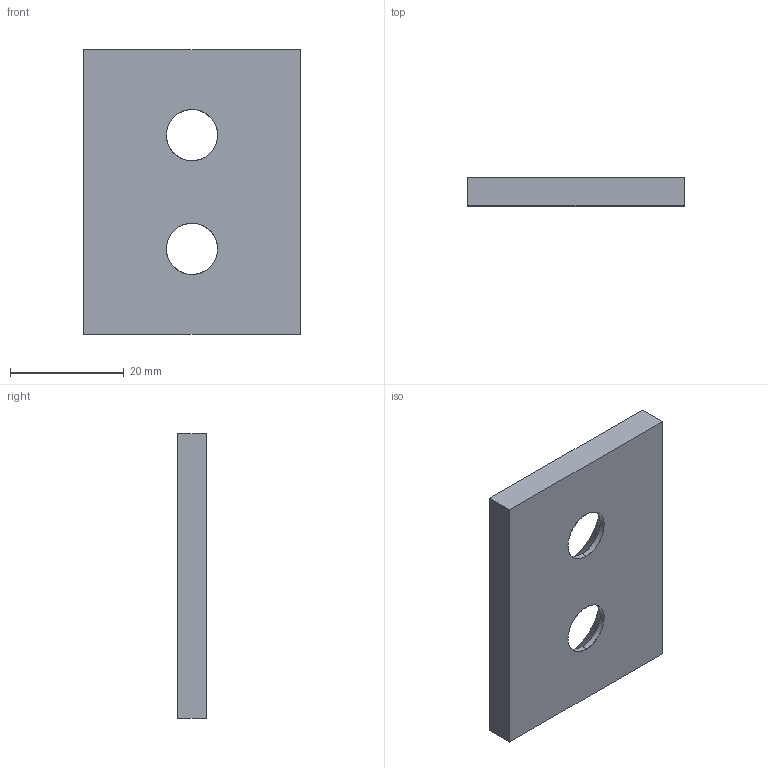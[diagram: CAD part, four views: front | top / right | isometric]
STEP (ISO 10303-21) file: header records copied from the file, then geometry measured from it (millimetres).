
FILE_DESCRIPTION(('CATIA V5 STEP Exchange'),'2;1');
FILE_NAME('C:\Users\Utente\Desktop\3D files A605\A605-038-050.stp','2020-04-13T15:44:58+00:00',('none'),('none'),'CATIA Version 5 Release 20 GA (IN-10)','CATIA V5 STEP AP203','none');
FILE_SCHEMA(('CONFIG_CONTROL_DESIGN'));
Length unit declared in the file: millimetre
Products named in the file (1): Noname
Bounding box: 38 x 5 x 50 mm (x, y, z)
Surface area: 4617.4 mm2 (no closed solid volume)
Topology: 0 solids, 10 shells, 14 faces, 56 edges, 48 vertices
Faces by surface type: extrusion 6, cylinder 4, revolution 4
Entity records: 726 total; most frequent: CARTESIAN_POINT 233, DIRECTION 66, ORIENTED_EDGE 64, EDGE_CURVE 56, VERTEX_POINT 48, VECTOR 38, LINE 32, AXIS2_PLACEMENT_3D 21
